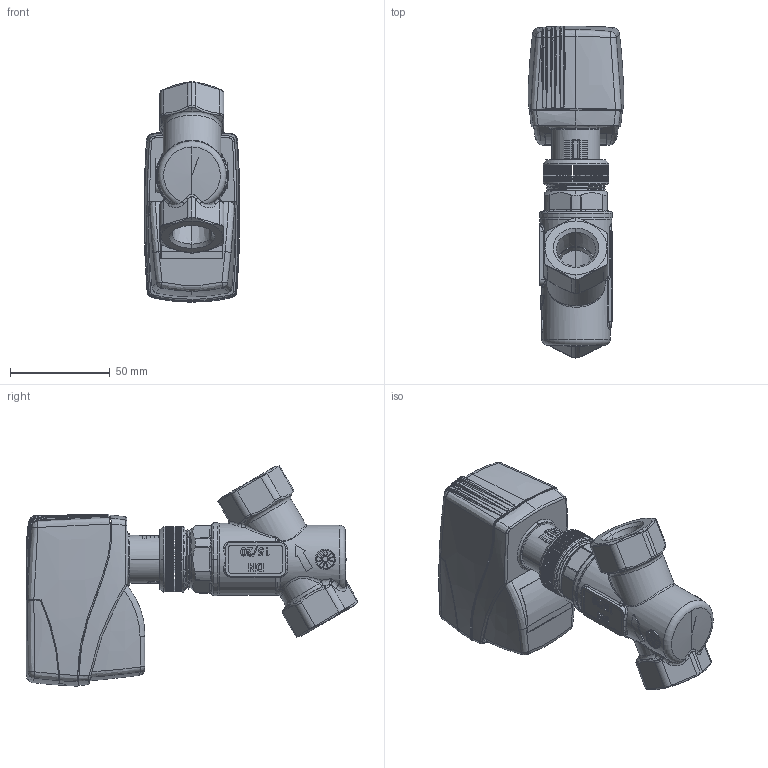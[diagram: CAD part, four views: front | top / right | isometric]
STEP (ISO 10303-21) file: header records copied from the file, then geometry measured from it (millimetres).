
FILE_DESCRIPTION (( 'STEP AP214' ), '1' );
FILE_NAME ('FlowCon A DN15 ISO Green0 FN.step', '2024-04-04T13:35:21', ( '' ), ( '' ), 'SwSTEP 2.0', 'SolidWorks 2023', '' );
FILE_SCHEMA (( 'AUTOMOTIVE_DESIGN' ));
Length unit declared in the file: millimetre
Products named in the file (1): FlowCon A DN15 ISO Green0 FN
Bounding box: 47.78 x 166.06 x 110.2 mm (x, y, z)
Surface area: 55559.4 mm2 (no closed solid volume)
Topology: 0 solids, 87 shells, 1244 faces, 5061 edges, 3750 vertices
Faces by surface type: plane 546, bspline 373, cylinder 223, cone 54, torus 42, sphere 6
Entity records: 89268 total; most frequent: CARTESIAN_POINT 57098, ORIENTED_EDGE 7407, EDGE_CURVE 5032, VERTEX_POINT 3743, DIRECTION 3706, B_SPLINE_CURVE_WITH_KNOTS 3502, AXIS2_PLACEMENT_3D 1390, EDGE_LOOP 1338
